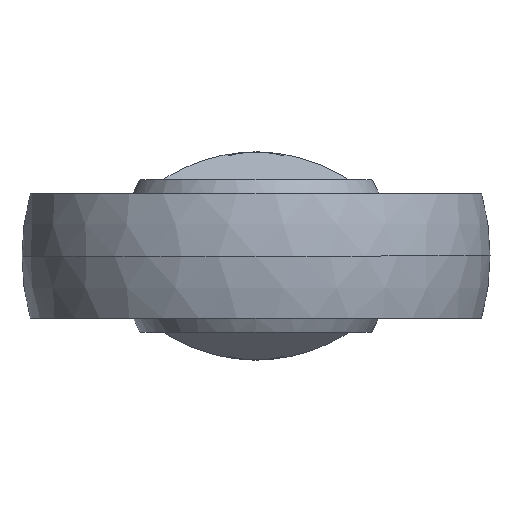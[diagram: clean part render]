
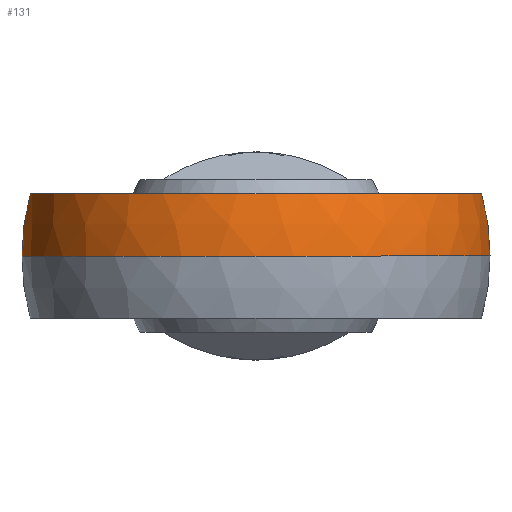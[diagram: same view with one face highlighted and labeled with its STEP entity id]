
A CAD part, left-side view. The second image highlights one B-rep face of the part: STEP entity #131.
In plain terms, the highlighted spherical face has radius 67.5 mm.
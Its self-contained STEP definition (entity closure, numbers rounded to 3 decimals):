
#69 = EDGE_CURVE ( 'NONE', #81, #80, #474, .T. ) ;
#70 = ORIENTED_EDGE ( 'NONE', *, *, #71, .F. ) ;
#71 = EDGE_CURVE ( 'NONE', #72, #81, #469, .T. ) ;
#72 = VERTEX_POINT ( 'NONE', #464 ) ;
#73 = ORIENTED_EDGE ( 'NONE', *, *, #84, .F. ) ;
#74 = ORIENTED_EDGE ( 'NONE', *, *, #75, .F. ) ;
#75 = EDGE_CURVE ( 'NONE', #76, #77, #463, .T. ) ;
#76 = VERTEX_POINT ( 'NONE', #458 ) ;
#77 = VERTEX_POINT ( 'NONE', #457 ) ;
#78 = ORIENTED_EDGE ( 'NONE', *, *, #79, .T. ) ;
#79 = EDGE_CURVE ( 'NONE', #76, #80, #456, .T. ) ;
#80 = VERTEX_POINT ( 'NONE', #451 ) ;
#81 = VERTEX_POINT ( 'NONE', #450 ) ;
#84 = EDGE_CURVE ( 'NONE', #77, #72, #506, .T. ) ;
#131 = ADVANCED_FACE ( 'NONE', ( #566 ), #565, .T. ) ;
#144 = EDGE_LOOP ( 'NONE', ( #74, #78, #145, #70, #73 ) ) ;
#145 = ORIENTED_EDGE ( 'NONE', *, *, #69, .F. ) ;
#449 = CARTESIAN_POINT ( 'NONE',  ( 34.298, 0., 0. ) ) ;
#450 = CARTESIAN_POINT ( 'NONE',  ( 34.298, -55.28, 18. ) ) ;
#451 = CARTESIAN_POINT ( 'NONE',  ( 34.298, -58.137, 0. ) ) ;
#452 = DIRECTION ( 'NONE',  ( 0., -1., 0. ) ) ;
#453 = DIRECTION ( 'NONE',  ( 0., 0., 1. ) ) ;
#454 = CARTESIAN_POINT ( 'NONE',  ( 0., 0., 0. ) ) ;
#455 = AXIS2_PLACEMENT_3D ( 'NONE', #454, #453, #452 ) ;
#456 = CIRCLE ( 'NONE', #455, 67.5 ) ;
#457 = CARTESIAN_POINT ( 'NONE',  ( 34.298, 58.137, 0. ) ) ;
#458 = CARTESIAN_POINT ( 'NONE',  ( -67.5, 0., 0. ) ) ;
#459 = DIRECTION ( 'NONE',  ( -1., 0., 0. ) ) ;
#460 = DIRECTION ( 'NONE',  ( 0., 0., -1. ) ) ;
#461 = CARTESIAN_POINT ( 'NONE',  ( 0., 0., 0. ) ) ;
#462 = AXIS2_PLACEMENT_3D ( 'NONE', #461, #460, #459 ) ;
#463 = CIRCLE ( 'NONE', #462, 67.5 ) ;
#464 = CARTESIAN_POINT ( 'NONE',  ( 34.298, 55.28, 18. ) ) ;
#465 = DIRECTION ( 'NONE',  ( -1., 0., 0. ) ) ;
#466 = DIRECTION ( 'NONE',  ( 0., 0., 1. ) ) ;
#467 = CARTESIAN_POINT ( 'NONE',  ( 0., 0., 18. ) ) ;
#468 = AXIS2_PLACEMENT_3D ( 'NONE', #467, #466, #465 ) ;
#469 = CIRCLE ( 'NONE', #468, 65.056 ) ;
#470 = DIRECTION ( 'NONE',  ( 0., 1., 0. ) ) ;
#471 = DIRECTION ( 'NONE',  ( 1., 0., 0. ) ) ;
#472 = CARTESIAN_POINT ( 'NONE',  ( 34.298, 0., 0. ) ) ;
#473 = AXIS2_PLACEMENT_3D ( 'NONE', #472, #471, #470 ) ;
#474 = CIRCLE ( 'NONE', #473, 58.137 ) ;
#503 = DIRECTION ( 'NONE',  ( 0., 1., 0. ) ) ;
#504 = DIRECTION ( 'NONE',  ( 1., 0., 0. ) ) ;
#505 = AXIS2_PLACEMENT_3D ( 'NONE', #449, #504, #503 ) ;
#506 = CIRCLE ( 'NONE', #505, 58.137 ) ;
#561 = DIRECTION ( 'NONE',  ( 0., 1., 0. ) ) ;
#562 = DIRECTION ( 'NONE',  ( 0., 0., 1. ) ) ;
#563 = AXIS2_PLACEMENT_3D ( 'NONE', #564, #562, #561 ) ;
#564 = CARTESIAN_POINT ( 'NONE',  ( 0., 0., 0. ) ) ;
#565 = SPHERICAL_SURFACE ( 'NONE', #563, 67.5 ) ;
#566 = FACE_OUTER_BOUND ( 'NONE', #144, .T. ) ;
